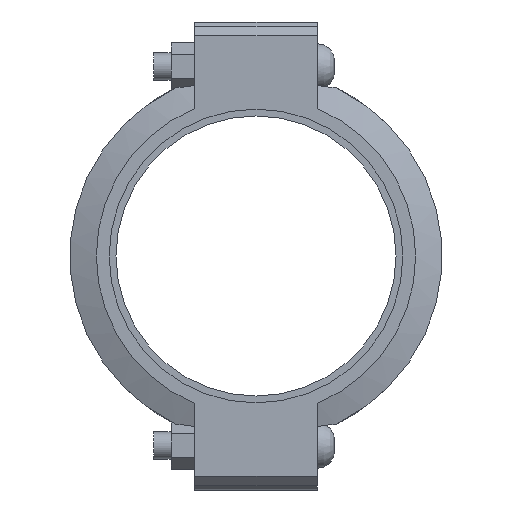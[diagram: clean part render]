
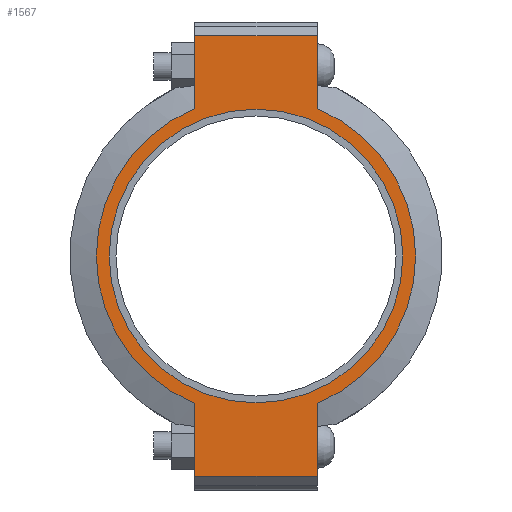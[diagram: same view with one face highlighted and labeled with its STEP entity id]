
A CAD part, left-side view. The second image highlights one B-rep face of the part: STEP entity #1567.
In plain terms, the highlighted planar face has unit normal (-1, 0, 0) as drawn and (0, 0, 1) by its records, which use the part's own axes.
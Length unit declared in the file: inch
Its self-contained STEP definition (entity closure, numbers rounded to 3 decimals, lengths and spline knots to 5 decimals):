
#194=LINE('',#2673,#281);
#205=LINE('',#2724,#292);
#211=LINE('',#2750,#298);
#213=LINE('',#2753,#300);
#214=LINE('',#2758,#301);
#215=LINE('',#2759,#302);
#281=VECTOR('',#2155,0.3937);
#292=VECTOR('',#2186,0.3937);
#298=VECTOR('',#2204,0.3937);
#300=VECTOR('',#2208,0.3937);
#301=VECTOR('',#2213,0.3937);
#302=VECTOR('',#2214,0.3937);
#360=FACE_BOUND('',#519,.T.);
#420=FACE_OUTER_BOUND('',#518,.T.);
#518=EDGE_LOOP('',(#1256,#1257,#1258,#1259,#1260,#1261,#1262,#1263));
#519=EDGE_LOOP('',(#1264));
#624=CIRCLE('',#1812,5.845);
#625=CIRCLE('',#1813,5.845);
#626=CIRCLE('',#1814,5.375);
#733=VERTEX_POINT('',#2670);
#734=VERTEX_POINT('',#2672);
#751=VERTEX_POINT('',#2719);
#752=VERTEX_POINT('',#2723);
#759=VERTEX_POINT('',#2745);
#760=VERTEX_POINT('',#2749);
#761=VERTEX_POINT('',#2755);
#762=VERTEX_POINT('',#2757);
#763=VERTEX_POINT('',#2761);
#903=EDGE_CURVE('',#734,#733,#194,.T.);
#924=EDGE_CURVE('',#752,#751,#205,.T.);
#935=EDGE_CURVE('',#760,#759,#211,.T.);
#937=EDGE_CURVE('',#760,#733,#213,.T.);
#938=EDGE_CURVE('',#759,#761,#624,.T.);
#939=EDGE_CURVE('',#761,#762,#214,.T.);
#940=EDGE_CURVE('',#752,#762,#215,.T.);
#941=EDGE_CURVE('',#751,#734,#625,.T.);
#942=EDGE_CURVE('',#763,#763,#626,.T.);
#1256=ORIENTED_EDGE('',*,*,#937,.F.);
#1257=ORIENTED_EDGE('',*,*,#935,.T.);
#1258=ORIENTED_EDGE('',*,*,#938,.T.);
#1259=ORIENTED_EDGE('',*,*,#939,.T.);
#1260=ORIENTED_EDGE('',*,*,#940,.F.);
#1261=ORIENTED_EDGE('',*,*,#924,.T.);
#1262=ORIENTED_EDGE('',*,*,#941,.T.);
#1263=ORIENTED_EDGE('',*,*,#903,.T.);
#1264=ORIENTED_EDGE('',*,*,#942,.T.);
#1419=PLANE('',#1811);
#1567=ADVANCED_FACE('',(#420,#360),#1419,.T.);
#1811=AXIS2_PLACEMENT_3D('',#2754,#2209,#2210);
#1812=AXIS2_PLACEMENT_3D('',#2756,#2211,#2212);
#1813=AXIS2_PLACEMENT_3D('',#2760,#2215,#2216);
#1814=AXIS2_PLACEMENT_3D('',#2762,#2217,#2218);
#2155=DIRECTION('',(-1.,0.,0.));
#2186=DIRECTION('',(-1.,0.,0.));
#2204=DIRECTION('',(1.,0.,0.));
#2208=DIRECTION('',(0.,1.,0.));
#2209=DIRECTION('center_axis',(0.,0.,1.));
#2210=DIRECTION('ref_axis',(1.,0.,0.));
#2211=DIRECTION('center_axis',(0.,0.,1.));
#2212=DIRECTION('ref_axis',(-1.,0.,0.));
#2213=DIRECTION('',(1.,0.,0.));
#2214=DIRECTION('',(0.,-1.,0.));
#2215=DIRECTION('center_axis',(0.,0.,1.));
#2216=DIRECTION('ref_axis',(-1.,0.,0.));
#2217=DIRECTION('center_axis',(0.,0.,-1.));
#2218=DIRECTION('ref_axis',(-1.,0.,0.));
#2670=CARTESIAN_POINT('',(-8.065,2.25,1.315));
#2672=CARTESIAN_POINT('',(-5.39458,2.25,1.315));
#2673=CARTESIAN_POINT('',(8.565,2.25,1.315));
#2719=CARTESIAN_POINT('',(5.39458,2.25,1.315));
#2723=CARTESIAN_POINT('',(8.065,2.25,1.315));
#2724=CARTESIAN_POINT('',(8.565,2.25,1.315));
#2745=CARTESIAN_POINT('',(-5.39458,-2.25,1.315));
#2749=CARTESIAN_POINT('',(-8.065,-2.25,1.315));
#2750=CARTESIAN_POINT('',(-8.565,-2.25,1.315));
#2753=CARTESIAN_POINT('',(-8.065,1.125,1.315));
#2754=CARTESIAN_POINT('Origin',(0.,0.,
1.315));
#2755=CARTESIAN_POINT('',(5.39458,-2.25,1.315));
#2756=CARTESIAN_POINT('Origin',(0.,0.,1.315));
#2757=CARTESIAN_POINT('',(8.065,-2.25,1.315));
#2758=CARTESIAN_POINT('',(-8.565,-2.25,1.315));
#2759=CARTESIAN_POINT('',(8.065,-1.125,1.315));
#2760=CARTESIAN_POINT('Origin',(0.,0.,1.315));
#2761=CARTESIAN_POINT('',(5.375,0.,1.315));
#2762=CARTESIAN_POINT('Origin',(0.,0.,1.315));
